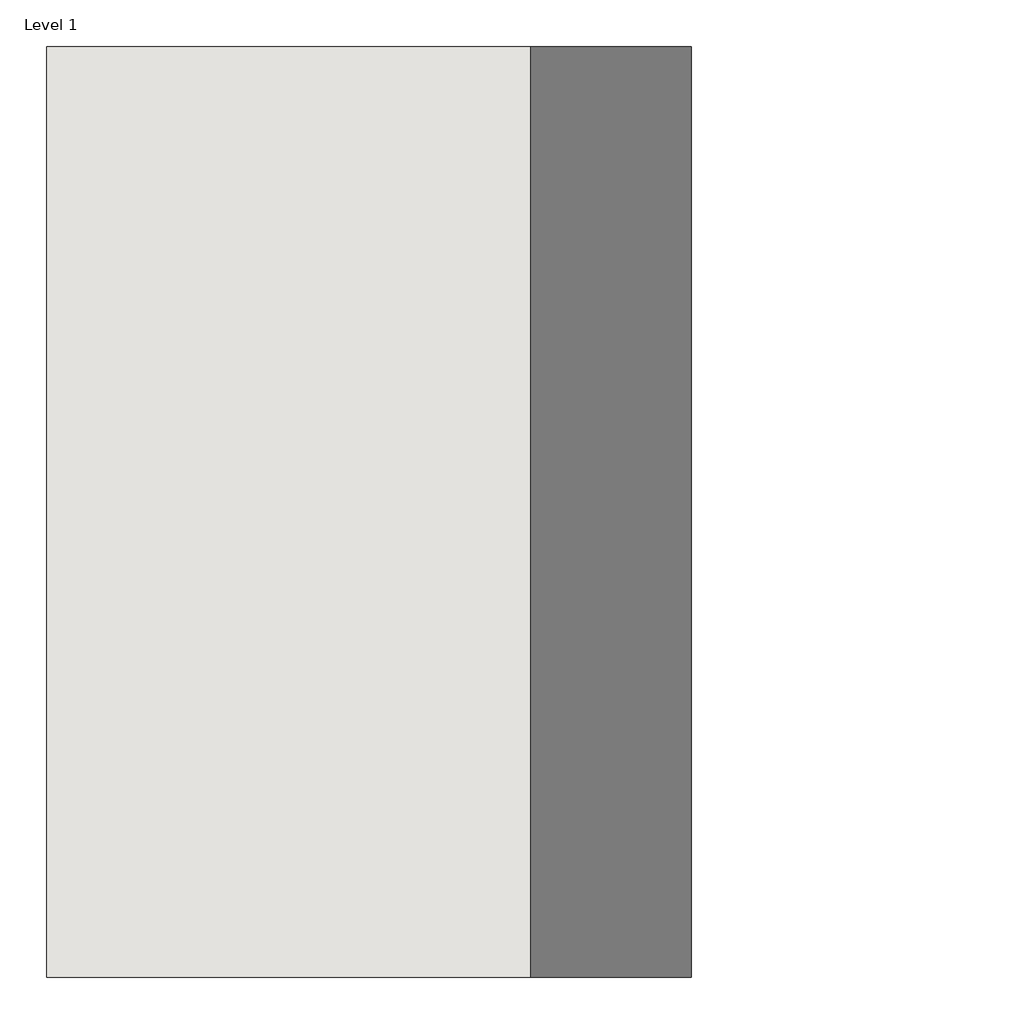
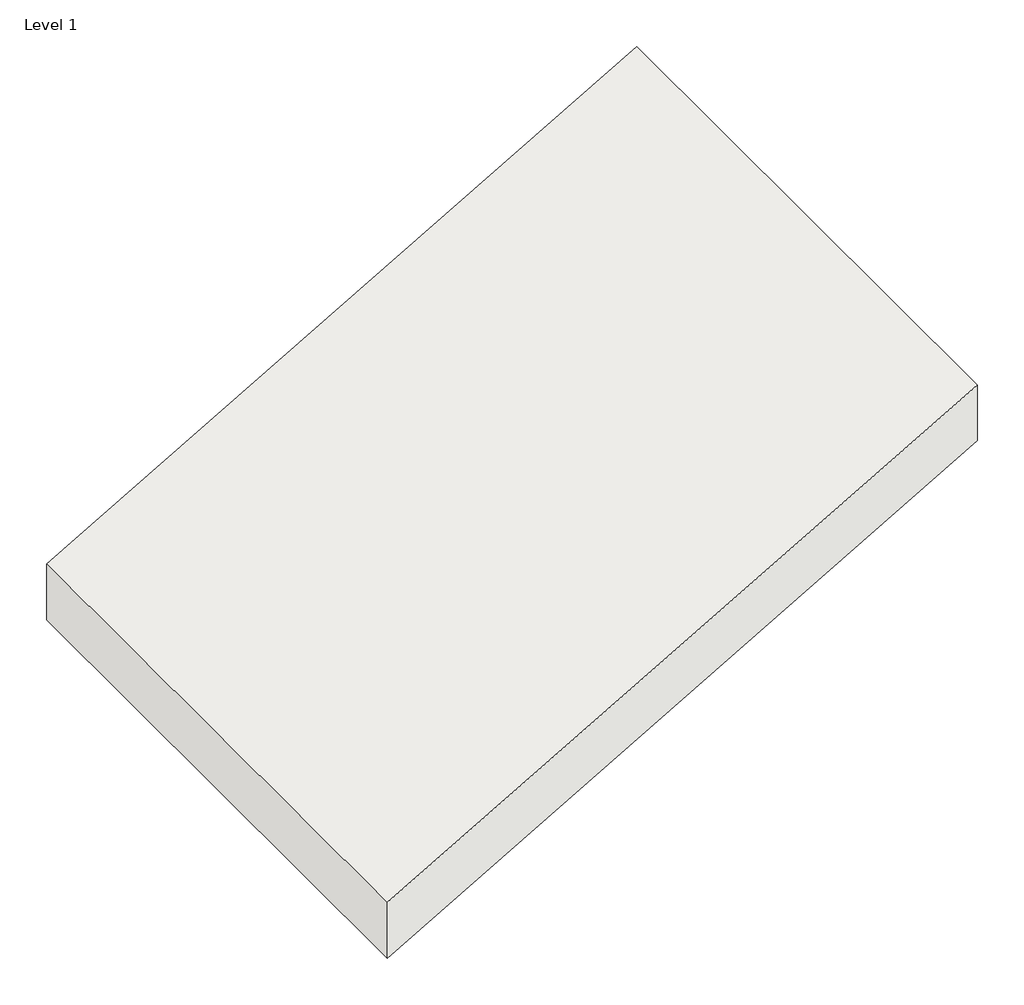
# One storey: 1 roof.
"""IFC4 building model written with IfcOpenShell, lengths in millimetres."""

from ifc_helpers import new_model, si_unit, frame, origin, place, context, project, spatial, polyline, outline, extrude, element, save

model = new_model("IFC4")

# Units and contexts
model_context = context("Model", 3, world=origin())
ifc_project = project(units=[si_unit("LENGTHUNIT", "METRE", prefix="MILLI")], contexts=[model_context])

# Site, building, storey
site = spatial("IfcSite", under=ifc_project)
building = spatial("IfcBuilding", under=site)
storey = spatial("IfcBuildingStorey", under=building, Name="Level 1", Elevation=0.0)

# Roof
placement = place(None, origin())
element("IfcRoof", 1, ObjectType="RIGIPS - 4.70.03 - REI 60 (60)", at=placement, inside=storey, context=model_context, shape_type="SweptSolid", body=[
    extrude(outline(polyline([(2032.2729475, 1500.0), (300.22214, -1500.0), (0.0, -1500.0), (1732.0508076, 1500.0), (2032.2729475, 1500.0)])), frame((0.0, -1500.0, 0.0), z_axis=(0.0, 1.0, 0.0), x_axis=(0.0, 0.0, 1.0)), (0.0, 0.0, 1.0), 3000.0),
])

save(model, "model.ifc")
